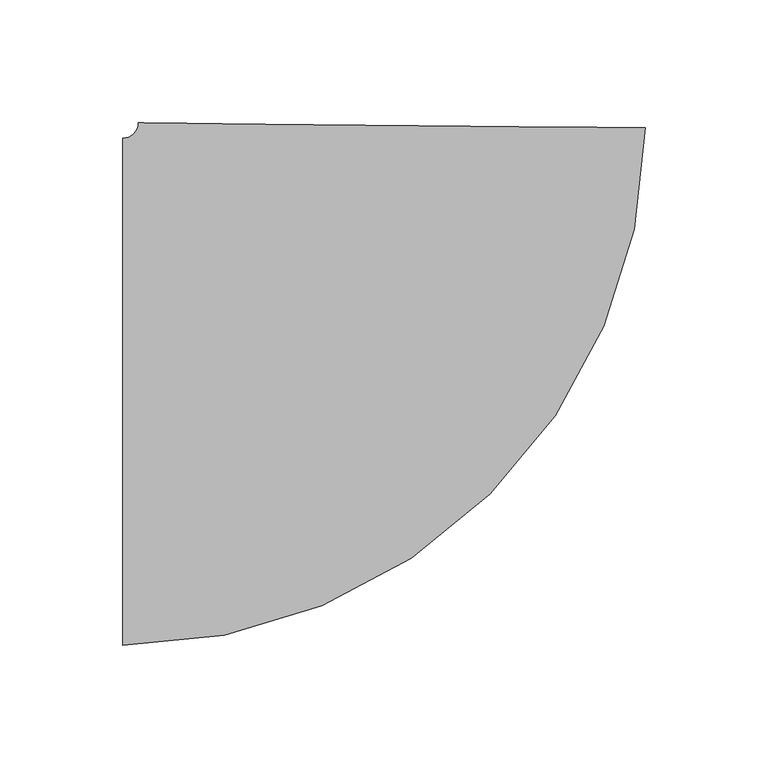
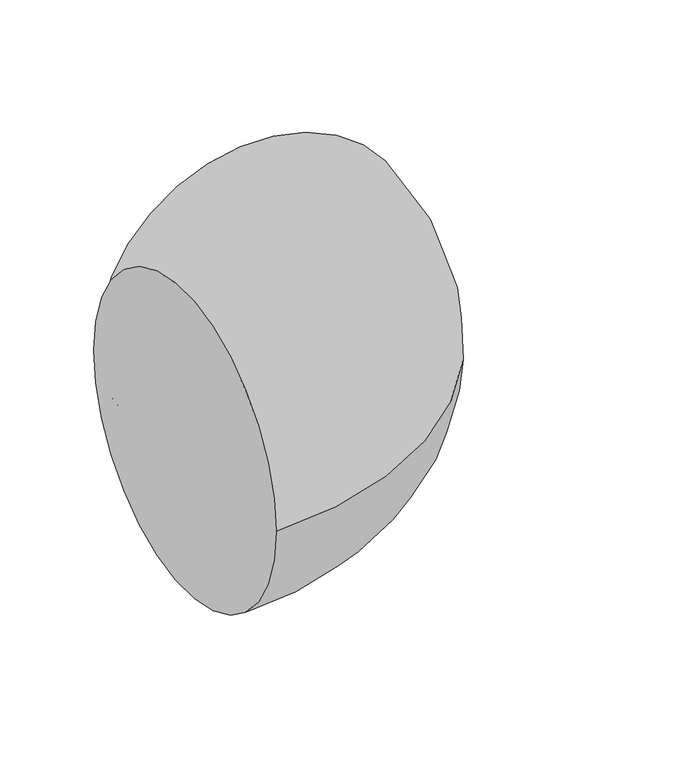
"""IFC4 building model written with IfcOpenShell, lengths in millimetres: pipe fitting geometry, M_Codo - Genérico : Estándar."""

from ifc_helpers import new_model, si_unit, point, frame, origin, place, context, project, spatial, circle_curve, ellipse_curve, trimmed, source, transform, mapped, element, save
from ifc_brep_helpers import plane_surface, revolved_surface, advanced_brep


def pipe_fitting_ae7840fb(model_context):
    return source(origin(), model_context, "Body", "AdvancedBrep", [
        advanced_brep(
        [(-108.447598, -103.1875, 0.0), (-108.447598, 103.1875, 0.0), (104.2667665, 107.410349, 0.0), (-102.0979155, 109.474003, 0.0)],
        [
            (0, 1, circle_curve(frame((-108.447598, 0.0, 0.0), z_axis=(-1.0, 0.0, 0.0), x_axis=(0.0, 1.0, 0.0)), 103.1875)),
            (1, 0, circle_curve(frame((-108.447598, 0.0, 0.0), z_axis=(-1.0, 0.0, 0.0), x_axis=(0.0, 1.0, 0.0)), 103.1875)),
            (2, 3, circle_curve(frame((1.0844255, 108.442176, 0.0), z_axis=(0.00999953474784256, 0.9999500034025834, 0.0), x_axis=(-0.9999500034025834, 0.00999953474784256, 0.0)), 103.1875)),
            (3, 2, circle_curve(frame((1.0844255, 108.442176, 0.0), z_axis=(0.00999953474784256, 0.9999500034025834, 0.0), x_axis=(-0.9999500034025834, 0.00999953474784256, 0.0)), 103.1875)),
            (3, 1, circle_curve(frame((-108.447598, 109.5375, 0.0), z_axis=(0.0, 0.0, -1.0), x_axis=(0.0, -1.0, 0.0)), 6.35)),
            (0, 2, circle_curve(frame((-108.447598, 109.5375, 0.0), z_axis=(0.0, 0.0, 1.0), x_axis=(0.0, -1.0, 0.0)), 212.725)),
        ],
        [
            plane_surface(frame((-108.447598, 0.0, 0.0), z_axis=(-1.0, 0.0, 0.0), x_axis=(0.0, 0.0, 1.0))),
            plane_surface(frame((1.0844255, 108.442176, 0.0), z_axis=(0.009999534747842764, 0.9999500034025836, 0.0), x_axis=(0.0, 0.0, 1.0))),
            revolved_surface(trimmed(ellipse_curve(frame((-108.447598, 0.0, 0.0), z_axis=(-1.0, 0.0, 0.0), x_axis=(0.0, 1.0, 0.0)), 103.1875, 103.1875), [point((-108.447598, -103.1875, 0.0))], [point((-108.447598, 103.1875, 0.0))], True, "CARTESIAN"), (-108.447598, 109.5375, 0.0), (0.0, 0.0, 1.0)),
            revolved_surface(trimmed(ellipse_curve(frame((-108.447598, 0.0, 0.0), z_axis=(-1.0, 0.0, 0.0), x_axis=(0.0, 1.0, 0.0)), 103.1875, 103.1875), [point((-108.447598, 103.1875, 0.0))], [point((-108.447598, -103.1875, 0.0))], True, "CARTESIAN"), (-108.447598, 109.5375, 0.0), (0.0, 0.0, 1.0)),
        ],
        [
            (0, [[1, 2]]),
            (1, [[3, 4]]),
            (2, [[5, -1, 6, -4]]),
            (3, [[-6, -2, -5, -3]]),
        ],
    ),
    ])


if __name__ == "__main__":
    model = new_model("IFC4")
    model_context = context("Model", 3, world=origin())
    ifc_project = project(units=[si_unit("LENGTHUNIT", "METRE", prefix="MILLI")], contexts=[model_context])
    site = spatial("IfcSite", under=ifc_project)
    building = spatial("IfcBuilding", under=site)
    placement = place(None, origin())
    pipe_fitting_shape = pipe_fitting_ae7840fb(model_context)
    element("IfcPipeFitting", 1, ObjectType="M_Codo - Genérico : Estándar", at=placement, inside=building, context=model_context, shape_type="MappedRepresentation", body=[
        mapped(pipe_fitting_shape, transform((0.0, 0.0, 0.0), x_axis=(1.0, 0.0, 0.0), y_axis=(0.0, 1.0, 0.0), z_axis=(0.0, 0.0, 1.0))),
    ])
    save(model, "model.ifc")
